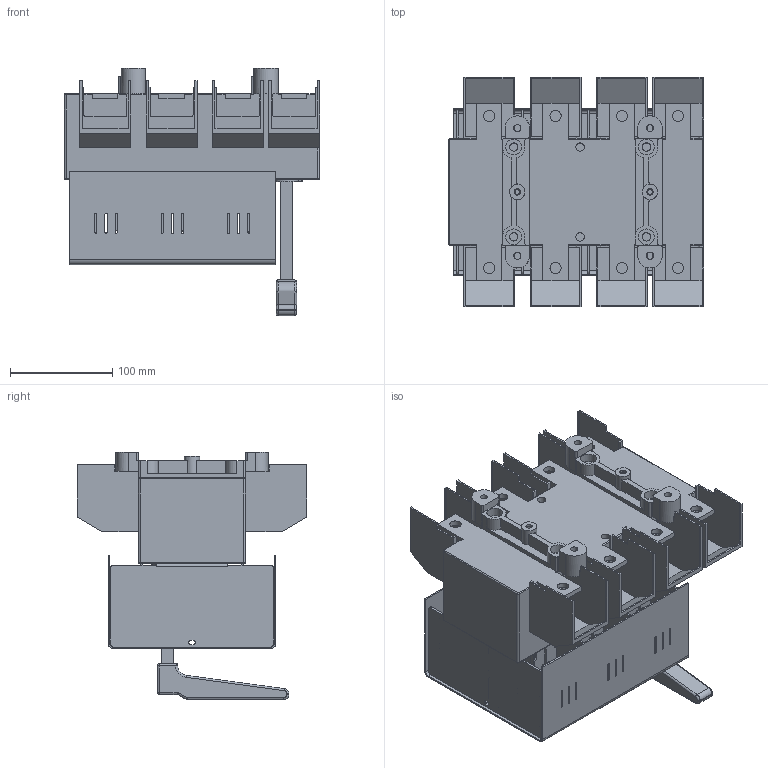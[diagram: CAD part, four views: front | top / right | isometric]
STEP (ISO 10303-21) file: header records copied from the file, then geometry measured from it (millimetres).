
FILE_DESCRIPTION(/* description */ (''),/* implementation_level */ '2;1');
FILE_NAME(/* name */ 'RAB 2 P3 N-R.stp',/* time_stamp */ '2021-08-19T13:13:17+02:00',/* author */ (''),/* organization */ (''),/* preprocessor_version */ 'ST-DEVELOPER v18.1',/* originating_system */ 'SIEMENS PLM Software NX 1965',/* authorisation */ '');
FILE_SCHEMA (('AUTOMOTIVE_DESIGN { 1 0 10303 214 3 1 1 1 }'));
Length unit declared in the file: millimetre
Products named in the file (1): RAB 2 P3 N-R
Bounding box: 250 x 225 x 242.3 mm (x, y, z)
Volume: 2690534.1 mm3; surface area: 614087.4 mm2
Topology: 1 solids, 1 shells, 1258 faces, 3577 edges, 2331 vertices
Faces by surface type: plane 861, cylinder 375, bspline 8, torus 8, sphere 6
Full cylindrical faces by diameter (mm): 4.8 x2, 6.2 x2, 7 x4, 8.2 x6, 11 x8, 14 x4, 15 x2, 15.5 x4
Entity records: 40767 total; most frequent: CARTESIAN_POINT 7279, ORIENTED_EDGE 7046, DIRECTION 6831, EDGE_CURVE 3523, LINE 2701, VECTOR 2701, VERTEX_POINT 2312, AXIS2_PLACEMENT_3D 2065
